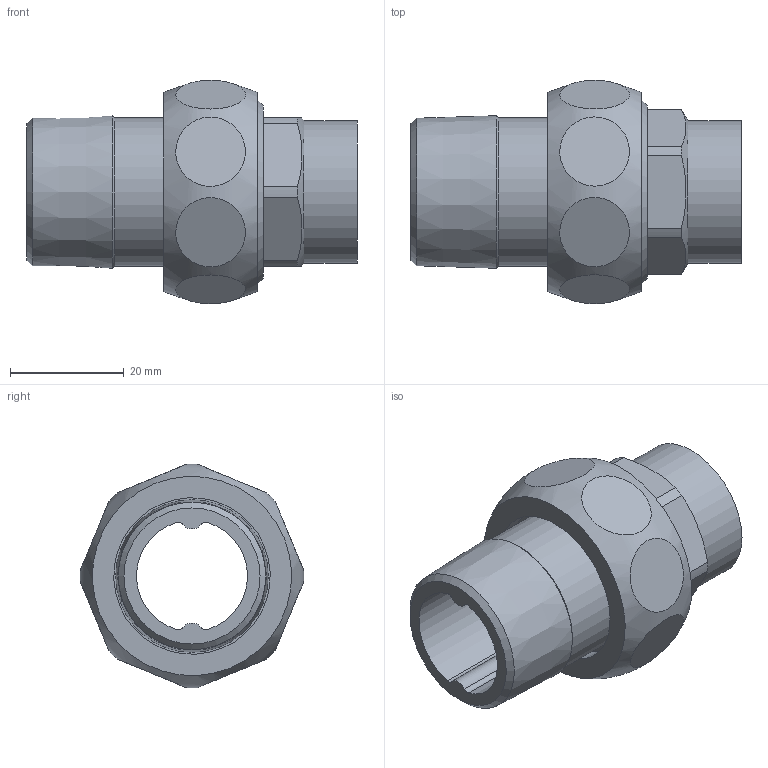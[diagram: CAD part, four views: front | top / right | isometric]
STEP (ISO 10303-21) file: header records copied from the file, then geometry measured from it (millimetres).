
FILE_DESCRIPTION((''),'2;1');
FILE_NAME('G:\Engineering\Public\RYSUNKI\SANHA POLSKA\4331g\step\14331g_22-34(2).stp','2013-09-18T07:26:09',('haldrzynski'),(''),'Autodesk Inventor 2009','Autodesk Inventor 2009','');
FILE_SCHEMA(('AUTOMOTIVE_DESIGN { 1 0 10303 214 1 1 1 1 }'));
Length unit declared in the file: millimetre
Products named in the file (5): 14331g_22-34(2); 14371_34-1(1); 14374_1(1); 1DCU1; 14370_22-1(1)
Assembly tree (4 placements, depth 2):
  14331g_22-34(2)
    14371_34-1(1)
    14374_1(1)
    1DCU1
    14370_22-1(1)
Bounding box: 58 x 39.27 x 39.27 mm (x, y, z)
Volume: 22115.1 mm3; surface area: 15286.1 mm2
Topology: 4 solids, 4 shells, 58 faces, 117 edges, 78 vertices
Faces by surface type: plane 26, cylinder 24, cone 7, bspline 1
Full cylindrical faces by diameter (mm): 21 x2, 22 x1, 25 x1, 26 x1, 27.5 x1, 29.5 x1, 30 x1, 30.291 x1, 33.249 x1
Entity records: 2820 total; most frequent: CARTESIAN_POINT 1501, DIRECTION 270, ORIENTED_EDGE 192, AXIS2_PLACEMENT_3D 122, EDGE_CURVE 96, EDGE_LOOP 96, VERTEX_POINT 76, FACE_OUTER_BOUND 58
